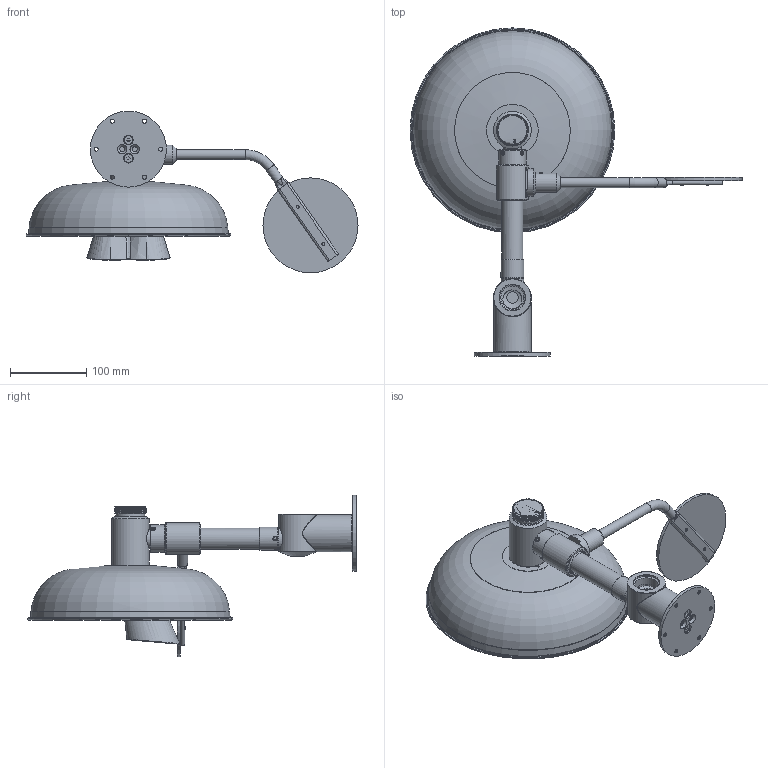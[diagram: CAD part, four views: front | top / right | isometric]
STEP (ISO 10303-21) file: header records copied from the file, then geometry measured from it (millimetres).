
FILE_DESCRIPTION (( 'STEP AP214' ), '1' );
FILE_NAME ('28330011001000-2.STEP', '2026-06-24T11:58:06', ( '' ), ( '' ), 'SwSTEP 2.0', 'SolidWorks 2022', '' );
FILE_SCHEMA (( 'AUTOMOTIVE_DESIGN' ));
Length unit declared in the file: millimetre
Products named in the file (1): 28330011001000-2
Bounding box: 436.81 x 432 x 212.78 mm (x, y, z)
Surface area: 358176.4 mm2 (no closed solid volume)
Topology: 0 solids, 74 shells, 375 faces, 1455 edges, 1122 vertices
Faces by surface type: plane 135, bspline 81, cylinder 76, cone 52, torus 31
Full cylindrical faces by diameter (mm): 0.4 x1, 2.5 x1, 5.5 x6, 6 x3, 6.5 x2, 8 x2, 10 x2, 10.5 x6, 12.5 x2, 13 x2, 18.7 x1, 23.5 x1, 24.2 x1, 25 x2, 27.8 x1, 30 x7, 30.45 x1, 30.5 x1, 33 x1, 33.4 x1, 34 x1, 36 x2, 38 x1, 39 x1, 42 x1, 49 x1, 49.5 x1, 49.6 x1, 50 x1, 100 x1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
Entity records: 58912 total; most frequent: CARTESIAN_POINT 47668, ORIENTED_EDGE 1677, DIRECTION 1545, EDGE_CURVE 1241, VERTEX_POINT 1052, EDGE_LOOP 608, AXIS2_PLACEMENT_3D 555, B_SPLINE_CURVE_WITH_KNOTS 513
